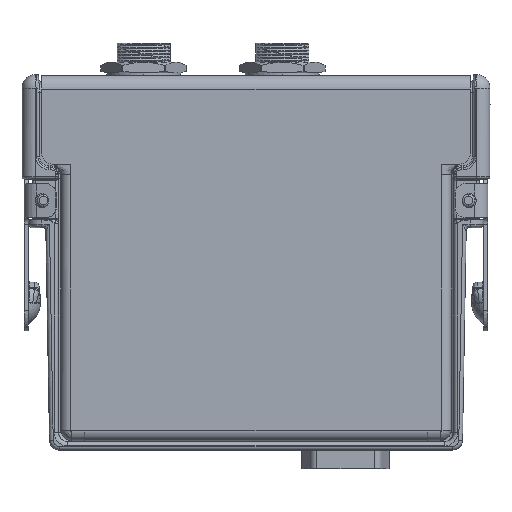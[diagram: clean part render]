
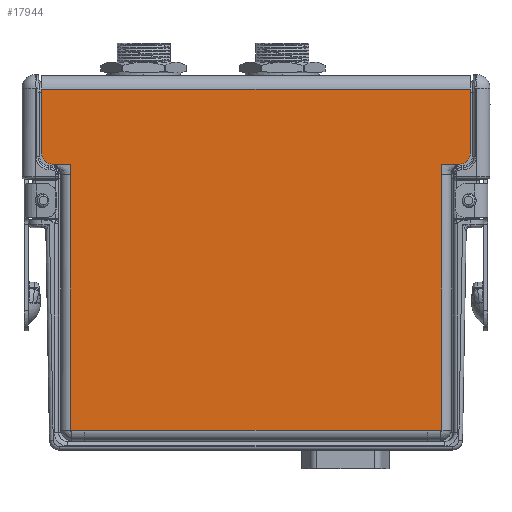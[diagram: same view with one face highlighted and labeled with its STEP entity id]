
A CAD part, left-side view. The second image highlights one B-rep face of the part: STEP entity #17944.
In plain terms, the highlighted planar face has unit normal (-1, 0, 0).
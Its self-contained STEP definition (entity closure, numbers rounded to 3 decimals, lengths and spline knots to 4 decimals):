
#9456=DIRECTION('',(0.,0.,1.));
#9457=VECTOR('',#9456,0.476);
#9458=CARTESIAN_POINT('',(-0.4475,1.5895,2.2));
#9459=LINE('',#9458,#9457);
#9533=DIRECTION('',(0.,0.,-1.));
#9534=VECTOR('',#9533,0.476);
#9535=CARTESIAN_POINT('',(-0.4475,-1.5895,2.676));
#9536=LINE('',#9535,#9534);
#9699=DIRECTION('',(0.,1.,0.));
#9700=VECTOR('',#9699,0.009);
#9701=CARTESIAN_POINT('',(-0.4475,1.5005,2.12));
#9702=LINE('',#9701,#9700);
#9711=DIRECTION('',(0.,1.,0.));
#9712=VECTOR('',#9711,0.01);
#9713=CARTESIAN_POINT('',(-0.4475,1.3665,0.146));
#9714=LINE('',#9713,#9712);
#9715=DIRECTION('',(0.,0.,1.));
#9716=VECTOR('',#9715,0.079);
#9717=CARTESIAN_POINT('',(-0.4475,1.3765,2.041));
#9718=LINE('',#9717,#9716);
#9719=DIRECTION('',(0.,1.,0.));
#9720=VECTOR('',#9719,0.1115);
#9721=CARTESIAN_POINT('',(-0.4475,1.3765,2.12));
#9722=LINE('',#9721,#9720);
#9723=DIRECTION('',(0.,1.,0.));
#9724=VECTOR('',#9723,0.0125);
#9725=CARTESIAN_POINT('',(-0.4475,1.488,2.12));
#9726=LINE('',#9725,#9724);
#9727=CARTESIAN_POINT('',(-0.4475,1.5095,2.2));
#9728=DIRECTION('',(-1.,0.,0.));
#9729=DIRECTION('',(0.,1.,0.));
#9730=AXIS2_PLACEMENT_3D('',#9727,#9728,#9729);
#9732=CARTESIAN_POINT('',(-0.4475,-1.5095,2.2));
#9733=DIRECTION('',(-1.,0.,0.));
#9734=DIRECTION('',(0.,0.,-1.));
#9735=AXIS2_PLACEMENT_3D('',#9732,#9733,#9734);
#9737=DIRECTION('',(0.,-1.,0.));
#9738=VECTOR('',#9737,0.0125);
#9739=CARTESIAN_POINT('',(-0.4475,-1.488,2.12));
#9740=LINE('',#9739,#9738);
#9741=DIRECTION('',(0.,-1.,0.));
#9742=VECTOR('',#9741,0.1115);
#9743=CARTESIAN_POINT('',(-0.4475,-1.3765,2.12));
#9744=LINE('',#9743,#9742);
#9745=DIRECTION('',(0.,0.,1.));
#9746=VECTOR('',#9745,0.079);
#9747=CARTESIAN_POINT('',(-0.4475,-1.3765,2.041));
#9748=LINE('',#9747,#9746);
#9749=DIRECTION('',(0.,1.,0.));
#9750=VECTOR('',#9749,0.01);
#9751=CARTESIAN_POINT('',(-0.4475,-1.3765,0.146));
#9752=LINE('',#9751,#9750);
#9760=DIRECTION('',(0.,-1.,0.));
#9761=VECTOR('',#9760,2.733);
#9762=CARTESIAN_POINT('',(-0.4475,1.3665,0.146));
#9763=LINE('',#9762,#9761);
#9831=DIRECTION('',(0.,0.,1.));
#9832=VECTOR('',#9831,1.895);
#9833=CARTESIAN_POINT('',(-0.4475,-1.3765,0.146));
#9834=LINE('',#9833,#9832);
#9920=DIRECTION('',(0.,-1.,0.));
#9921=VECTOR('',#9920,0.009);
#9922=CARTESIAN_POINT('',(-0.4475,-1.5005,2.12));
#9923=LINE('',#9922,#9921);
#10274=DIRECTION('',(0.,0.,-1.));
#10275=VECTOR('',#10274,1.895);
#10276=CARTESIAN_POINT('',(-0.4475,1.3765,2.041));
#10277=LINE('',#10276,#10275);
#11366=DIRECTION('',(0.,1.,0.));
#11367=VECTOR('',#11366,3.179);
#11368=CARTESIAN_POINT('',(-0.4475,-1.5895,2.676));
#11369=LINE('',#11368,#11367);
#12867=CARTESIAN_POINT('',(-0.4475,1.5895,2.2));
#12868=CARTESIAN_POINT('',(-0.4475,1.5095,2.12));
#12869=VERTEX_POINT('',#12867);
#12870=VERTEX_POINT('',#12868);
#12871=CARTESIAN_POINT('',(-0.4475,1.5895,2.676));
#12872=VERTEX_POINT('',#12871);
#12873=CARTESIAN_POINT('',(-0.4475,-1.5895,2.676));
#12874=VERTEX_POINT('',#12873);
#12875=CARTESIAN_POINT('',(-0.4475,-1.5895,2.2));
#12876=VERTEX_POINT('',#12875);
#12877=CARTESIAN_POINT('',(-0.4475,-1.5095,2.12));
#12878=VERTEX_POINT('',#12877);
#13075=CARTESIAN_POINT('',(-0.4475,-1.488,2.12));
#13076=CARTESIAN_POINT('',(-0.4475,-1.5005,2.12));
#13077=VERTEX_POINT('',#13075);
#13078=VERTEX_POINT('',#13076);
#13079=CARTESIAN_POINT('',(-0.4475,-1.3765,2.041));
#13080=CARTESIAN_POINT('',(-0.4475,-1.3765,2.12));
#13081=VERTEX_POINT('',#13079);
#13082=VERTEX_POINT('',#13080);
#13096=CARTESIAN_POINT('',(-0.4475,1.3765,2.041));
#13097=CARTESIAN_POINT('',(-0.4475,1.3765,2.12));
#13098=VERTEX_POINT('',#13096);
#13099=VERTEX_POINT('',#13097);
#13100=CARTESIAN_POINT('',(-0.4475,1.488,2.12));
#13101=CARTESIAN_POINT('',(-0.4475,1.5005,2.12));
#13102=VERTEX_POINT('',#13100);
#13103=VERTEX_POINT('',#13101);
#13125=CARTESIAN_POINT('',(-0.4475,-1.3765,0.146));
#13126=CARTESIAN_POINT('',(-0.4475,-1.3665,0.146));
#13127=VERTEX_POINT('',#13125);
#13128=VERTEX_POINT('',#13126);
#13152=CARTESIAN_POINT('',(-0.4475,1.3665,0.146));
#13153=CARTESIAN_POINT('',(-0.4475,1.3765,0.146));
#13154=VERTEX_POINT('',#13152);
#13155=VERTEX_POINT('',#13153);
#17905=CARTESIAN_POINT('',(-0.4475,0.,1.411));
#17906=DIRECTION('',(1.,0.,0.));
#17907=DIRECTION('',(0.,1.,0.));
#17908=AXIS2_PLACEMENT_3D('',#17905,#17906,#17907);
#17909=PLANE('',#17908);
#17911=ORIENTED_EDGE('',*,*,#17910,.T.);
#17913=ORIENTED_EDGE('',*,*,#17912,.F.);
#17915=ORIENTED_EDGE('',*,*,#17914,.T.);
#17917=ORIENTED_EDGE('',*,*,#17916,.T.);
#17919=ORIENTED_EDGE('',*,*,#17918,.T.);
#17920=ORIENTED_EDGE('',*,*,#17887,.T.);
#17921=ORIENTED_EDGE('',*,*,#17900,.F.);
#17922=ORIENTED_EDGE('',*,*,#17289,.T.);
#17924=ORIENTED_EDGE('',*,*,#17923,.F.);
#17925=ORIENTED_EDGE('',*,*,#17388,.T.);
#17927=ORIENTED_EDGE('',*,*,#17926,.F.);
#17929=ORIENTED_EDGE('',*,*,#17928,.F.);
#17931=ORIENTED_EDGE('',*,*,#17930,.F.);
#17933=ORIENTED_EDGE('',*,*,#17932,.F.);
#17935=ORIENTED_EDGE('',*,*,#17934,.F.);
#17937=ORIENTED_EDGE('',*,*,#17936,.F.);
#17939=ORIENTED_EDGE('',*,*,#17938,.T.);
#17941=ORIENTED_EDGE('',*,*,#17940,.F.);
#17942=EDGE_LOOP('',(#17911,#17913,#17915,#17917,#17919,#17920,#17921,#17922,
#17924,#17925,#17927,#17929,#17931,#17933,#17935,#17937,#17939,#17941));
#17943=FACE_OUTER_BOUND('',#17942,.F.);
#17944=ADVANCED_FACE('',(#17943),#17909,.F.);
#9731=CIRCLE('',#9730,0.08);
#9736=CIRCLE('',#9735,0.08);
#17289=EDGE_CURVE('',#12869,#12872,#9459,.T.);
#17388=EDGE_CURVE('',#12874,#12876,#9536,.T.);
#17887=EDGE_CURVE('',#13103,#12870,#9702,.T.);
#17900=EDGE_CURVE('',#12869,#12870,#9731,.T.);
#17910=EDGE_CURVE('',#13154,#13155,#9714,.T.);
#17912=EDGE_CURVE('',#13098,#13155,#10277,.T.);
#17914=EDGE_CURVE('',#13098,#13099,#9718,.T.);
#17916=EDGE_CURVE('',#13099,#13102,#9722,.T.);
#17918=EDGE_CURVE('',#13102,#13103,#9726,.T.);
#17923=EDGE_CURVE('',#12874,#12872,#11369,.T.);
#17926=EDGE_CURVE('',#12878,#12876,#9736,.T.);
#17928=EDGE_CURVE('',#13078,#12878,#9923,.T.);
#17930=EDGE_CURVE('',#13077,#13078,#9740,.T.);
#17932=EDGE_CURVE('',#13082,#13077,#9744,.T.);
#17934=EDGE_CURVE('',#13081,#13082,#9748,.T.);
#17936=EDGE_CURVE('',#13127,#13081,#9834,.T.);
#17938=EDGE_CURVE('',#13127,#13128,#9752,.T.);
#17940=EDGE_CURVE('',#13154,#13128,#9763,.T.);
